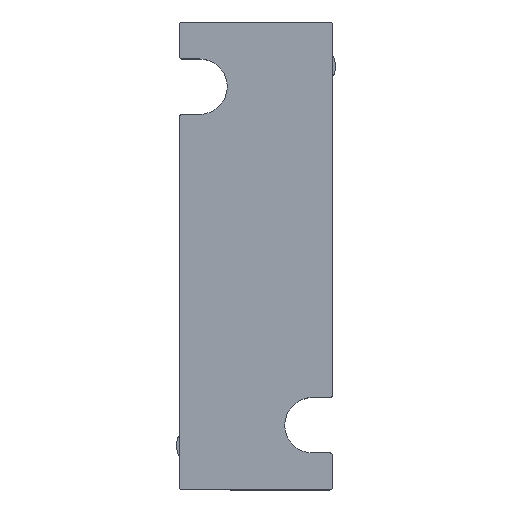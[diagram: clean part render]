
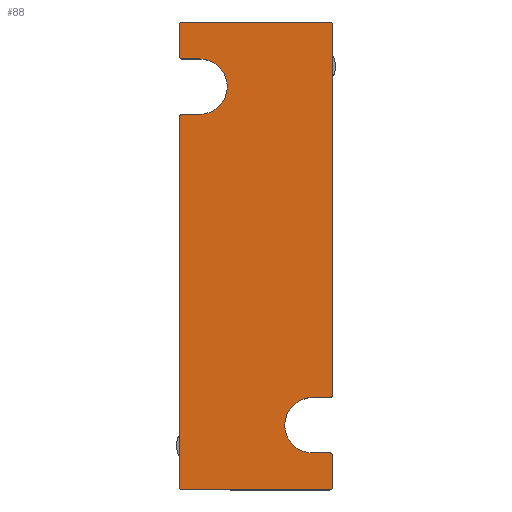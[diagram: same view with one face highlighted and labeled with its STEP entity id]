
A CAD part, top view. The second image highlights one B-rep face of the part: STEP entity #88.
In plain terms, the highlighted planar face has unit normal (0, 0, 1).
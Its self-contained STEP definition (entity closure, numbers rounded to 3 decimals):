
#88=ADVANCED_FACE('',(#634),#633,.T.);
#633=PLANE('',#1428);
#634=FACE_OUTER_BOUND('',#1429,.T.);
#1425=CARTESIAN_POINT('',(-16.5,-4.56,0.));
#1426=DIRECTION('',(0.,0.,1.));
#1427=DIRECTION('',(1.,0.,0.));
#1428=AXIS2_PLACEMENT_3D('',#1425,#1426,#1427);
#1429=EDGE_LOOP('',(#2294,#2295,#2296,#2297,#2298,#2299,#2300,#2301,#2302,#2303,#2304,#2305,#2306,#2307,#2308,#2309,#2310,#2311,#2312,#2313));
#2294=ORIENTED_EDGE('',*,*,#2570,.F.);
#2295=ORIENTED_EDGE('',*,*,#2651,.T.);
#2296=ORIENTED_EDGE('',*,*,#2649,.F.);
#2297=ORIENTED_EDGE('',*,*,#2647,.T.);
#2298=ORIENTED_EDGE('',*,*,#2645,.F.);
#2299=ORIENTED_EDGE('',*,*,#2643,.T.);
#2300=ORIENTED_EDGE('',*,*,#2641,.T.);
#2301=ORIENTED_EDGE('',*,*,#2639,.T.);
#2302=ORIENTED_EDGE('',*,*,#2637,.F.);
#2303=ORIENTED_EDGE('',*,*,#2635,.T.);
#2304=ORIENTED_EDGE('',*,*,#2632,.F.);
#2305=ORIENTED_EDGE('',*,*,#2630,.T.);
#2306=ORIENTED_EDGE('',*,*,#2628,.F.);
#2307=ORIENTED_EDGE('',*,*,#2626,.T.);
#2308=ORIENTED_EDGE('',*,*,#2624,.F.);
#2309=ORIENTED_EDGE('',*,*,#2622,.T.);
#2310=ORIENTED_EDGE('',*,*,#2620,.T.);
#2311=ORIENTED_EDGE('',*,*,#2618,.T.);
#2312=ORIENTED_EDGE('',*,*,#2616,.F.);
#2313=ORIENTED_EDGE('',*,*,#2614,.T.);
#2570=EDGE_CURVE('',#3030,#3037,#3038,.T.);
#2614=EDGE_CURVE('',#3329,#3037,#3330,.T.);
#2616=EDGE_CURVE('',#3329,#3342,#3343,.T.);
#2618=EDGE_CURVE('',#3355,#3342,#3356,.T.);
#2620=EDGE_CURVE('',#3368,#3355,#3369,.T.);
#2622=EDGE_CURVE('',#3381,#3368,#3382,.T.);
#2624=EDGE_CURVE('',#3381,#3394,#3395,.T.);
#2626=EDGE_CURVE('',#3407,#3394,#3408,.T.);
#2628=EDGE_CURVE('',#3407,#3420,#3421,.T.);
#2630=EDGE_CURVE('',#3433,#3420,#3434,.T.);
#2632=EDGE_CURVE('',#3433,#3446,#3447,.T.);
#2635=EDGE_CURVE('',#3465,#3446,#3466,.T.);
#2637=EDGE_CURVE('',#3465,#3478,#3479,.T.);
#2639=EDGE_CURVE('',#3491,#3478,#3492,.T.);
#2641=EDGE_CURVE('',#3504,#3491,#3505,.T.);
#2643=EDGE_CURVE('',#3517,#3504,#3518,.T.);
#2645=EDGE_CURVE('',#3517,#3530,#3531,.T.);
#2647=EDGE_CURVE('',#3543,#3530,#3544,.T.);
#2649=EDGE_CURVE('',#3543,#3556,#3557,.T.);
#2651=EDGE_CURVE('',#3030,#3556,#3569,.T.);
#3030=VERTEX_POINT('',#4520);
#3037=VERTEX_POINT('',#4524);
#3038=CIRCLE('',#4528,0.3);
#3329=VERTEX_POINT('',#4704);
#3330=LINE('',#4705,#4706);
#3342=VERTEX_POINT('',#4711);
#3343=CIRCLE('',#4715,0.3);
#3355=VERTEX_POINT('',#4719);
#3356=LINE('',#4720,#4721);
#3368=VERTEX_POINT('',#4726);
#3369=CIRCLE('',#4730,2.7);
#3381=VERTEX_POINT('',#4734);
#3382=LINE('',#4735,#4736);
#3394=VERTEX_POINT('',#4741);
#3395=CIRCLE('',#4745,0.3);
#3407=VERTEX_POINT('',#4749);
#3408=LINE('',#4750,#4751);
#3420=VERTEX_POINT('',#4756);
#3421=CIRCLE('',#4760,0.3);
#3433=VERTEX_POINT('',#4764);
#3434=LINE('',#4765,#4766);
#3446=VERTEX_POINT('',#4771);
#3447=CIRCLE('',#4775,0.3);
#3465=VERTEX_POINT('',#4782);
#3466=LINE('',#4783,#4784);
#3478=VERTEX_POINT('',#4789);
#3479=CIRCLE('',#4793,0.3);
#3491=VERTEX_POINT('',#4797);
#3492=LINE('',#4798,#4799);
#3504=VERTEX_POINT('',#4804);
#3505=CIRCLE('',#4808,2.7);
#3517=VERTEX_POINT('',#4812);
#3518=LINE('',#4813,#4814);
#3530=VERTEX_POINT('',#4819);
#3531=CIRCLE('',#4823,0.3);
#3543=VERTEX_POINT('',#4827);
#3544=LINE('',#4828,#4829);
#3556=VERTEX_POINT('',#4834);
#3557=CIRCLE('',#4838,0.3);
#3569=LINE('',#4842,#4843);
#4520=CARTESIAN_POINT('',(-0.3,45.6,0.));
#4524=CARTESIAN_POINT('',(0.,45.3,0.));
#4525=CARTESIAN_POINT('',(-0.3,45.3,0.));
#4526=DIRECTION('',(0.,0.,-1.));
#4527=DIRECTION('',(-1.,0.,0.));
#4528=AXIS2_PLACEMENT_3D('',#4525,#4526,#4527);
#4704=CARTESIAN_POINT('',(0.,9.3,0.));
#4705=CARTESIAN_POINT('',(0.,9.3,0.));
#4706=VECTOR('',#4707,36.);
#4707=DIRECTION('',(0.,1.,0.));
#4711=CARTESIAN_POINT('',(-0.3,9.,0.));
#4712=CARTESIAN_POINT('',(-0.3,9.3,0.));
#4713=DIRECTION('',(0.,0.,-1.));
#4714=DIRECTION('',(-1.,0.,0.));
#4715=AXIS2_PLACEMENT_3D('',#4712,#4713,#4714);
#4719=CARTESIAN_POINT('',(-2.,9.,0.));
#4720=CARTESIAN_POINT('',(-2.,9.,0.));
#4721=VECTOR('',#4722,1.7);
#4722=DIRECTION('',(1.,0.,0.));
#4726=CARTESIAN_POINT('',(-2.,3.6,0.));
#4727=CARTESIAN_POINT('',(-2.,6.3,0.));
#4728=DIRECTION('',(0.,0.,-1.));
#4729=DIRECTION('',(0.,1.,0.));
#4730=AXIS2_PLACEMENT_3D('',#4727,#4728,#4729);
#4734=CARTESIAN_POINT('',(-0.3,3.6,0.));
#4735=CARTESIAN_POINT('',(-0.3,3.6,0.));
#4736=VECTOR('',#4737,1.7);
#4737=DIRECTION('',(-1.,0.,0.));
#4741=CARTESIAN_POINT('',(0.,3.3,0.));
#4742=CARTESIAN_POINT('',(-0.3,3.3,0.));
#4743=DIRECTION('',(0.,0.,-1.));
#4744=DIRECTION('',(-1.,0.,0.));
#4745=AXIS2_PLACEMENT_3D('',#4742,#4743,#4744);
#4749=CARTESIAN_POINT('',(0.,0.3,0.));
#4750=CARTESIAN_POINT('',(0.,0.3,0.));
#4751=VECTOR('',#4752,3.);
#4752=DIRECTION('',(0.,1.,0.));
#4756=CARTESIAN_POINT('',(-0.3,0.,0.));
#4757=CARTESIAN_POINT('',(-0.3,0.3,0.));
#4758=DIRECTION('',(0.,0.,-1.));
#4759=DIRECTION('',(-1.,0.,0.));
#4760=AXIS2_PLACEMENT_3D('',#4757,#4758,#4759);
#4764=CARTESIAN_POINT('',(-14.7,0.,0.));
#4765=CARTESIAN_POINT('',(-14.7,0.,0.));
#4766=VECTOR('',#4767,14.4);
#4767=DIRECTION('',(1.,0.,0.));
#4771=CARTESIAN_POINT('',(-15.,0.3,0.));
#4772=CARTESIAN_POINT('',(-14.7,0.3,0.));
#4773=DIRECTION('',(0.,0.,-1.));
#4774=DIRECTION('',(-1.,0.,0.));
#4775=AXIS2_PLACEMENT_3D('',#4772,#4773,#4774);
#4782=CARTESIAN_POINT('',(-15.,36.3,0.));
#4783=CARTESIAN_POINT('',(-15.,36.3,0.));
#4784=VECTOR('',#4785,36.);
#4785=DIRECTION('',(0.,-1.,0.));
#4789=CARTESIAN_POINT('',(-14.7,36.6,0.));
#4790=CARTESIAN_POINT('',(-14.7,36.3,0.));
#4791=DIRECTION('',(0.,0.,-1.));
#4792=DIRECTION('',(-1.,0.,0.));
#4793=AXIS2_PLACEMENT_3D('',#4790,#4791,#4792);
#4797=CARTESIAN_POINT('',(-13.,36.6,0.));
#4798=CARTESIAN_POINT('',(-13.,36.6,0.));
#4799=VECTOR('',#4800,1.7);
#4800=DIRECTION('',(-1.,0.,0.));
#4804=CARTESIAN_POINT('',(-13.,42.,0.));
#4805=CARTESIAN_POINT('',(-13.,39.3,0.));
#4806=DIRECTION('',(0.,0.,-1.));
#4807=DIRECTION('',(-1.,0.,0.));
#4808=AXIS2_PLACEMENT_3D('',#4805,#4806,#4807);
#4812=CARTESIAN_POINT('',(-14.7,42.,0.));
#4813=CARTESIAN_POINT('',(-14.7,42.,0.));
#4814=VECTOR('',#4815,1.7);
#4815=DIRECTION('',(1.,0.,0.));
#4819=CARTESIAN_POINT('',(-15.,42.3,0.));
#4820=CARTESIAN_POINT('',(-14.7,42.3,0.));
#4821=DIRECTION('',(0.,0.,-1.));
#4822=DIRECTION('',(-1.,0.,0.));
#4823=AXIS2_PLACEMENT_3D('',#4820,#4821,#4822);
#4827=CARTESIAN_POINT('',(-15.,45.3,0.));
#4828=CARTESIAN_POINT('',(-15.,45.3,0.));
#4829=VECTOR('',#4830,3.);
#4830=DIRECTION('',(0.,-1.,0.));
#4834=CARTESIAN_POINT('',(-14.7,45.6,0.));
#4835=CARTESIAN_POINT('',(-14.7,45.3,0.));
#4836=DIRECTION('',(0.,0.,-1.));
#4837=DIRECTION('',(-1.,0.,0.));
#4838=AXIS2_PLACEMENT_3D('',#4835,#4836,#4837);
#4842=CARTESIAN_POINT('',(-0.3,45.6,0.));
#4843=VECTOR('',#4844,14.4);
#4844=DIRECTION('',(-1.,0.,0.));
